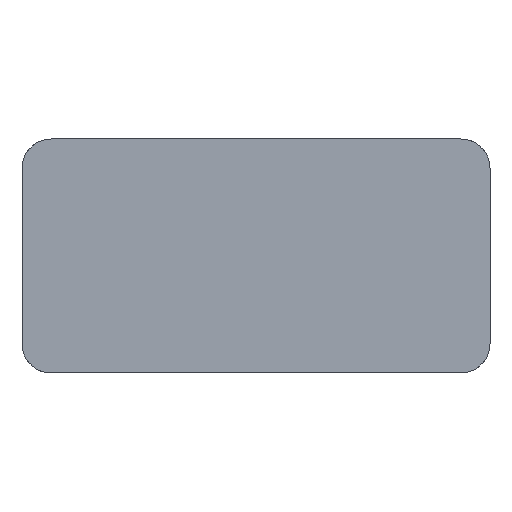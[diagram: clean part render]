
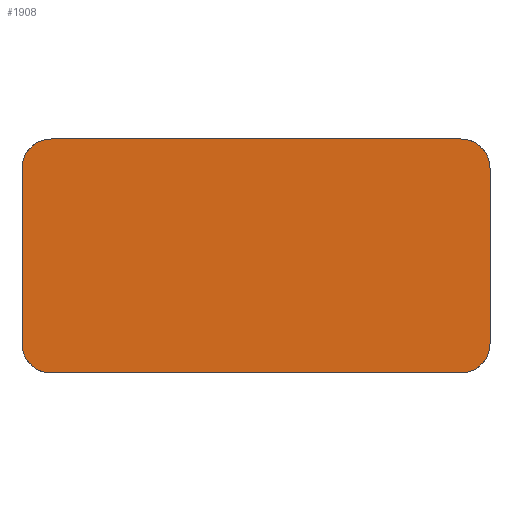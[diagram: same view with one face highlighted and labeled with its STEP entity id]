
A CAD part, front view. The second image highlights one B-rep face of the part: STEP entity #1908.
In plain terms, the highlighted planar face has unit normal (0, -1, 0).
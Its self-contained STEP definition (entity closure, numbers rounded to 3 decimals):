
#17 = DIRECTION ( 'NONE',  ( 0., -1., 0. ) ) ;
#177 = DIRECTION ( 'NONE',  ( 1., 0., 0. ) ) ;
#187 = ORIENTED_EDGE ( 'NONE', *, *, #1529, .T. ) ;
#200 = VERTEX_POINT ( 'NONE', #1638 ) ;
#260 = VECTOR ( 'NONE', #2608, 1000. ) ;
#271 = LINE ( 'NONE', #2055, #1368 ) ;
#277 = CARTESIAN_POINT ( 'NONE',  ( -35., 0., -20. ) ) ;
#365 = ORIENTED_EDGE ( 'NONE', *, *, #1700, .T. ) ;
#414 = VERTEX_POINT ( 'NONE', #2199 ) ;
#477 = CARTESIAN_POINT ( 'NONE',  ( -40., 0., -20. ) ) ;
#594 = VERTEX_POINT ( 'NONE', #2537 ) ;
#641 = AXIS2_PLACEMENT_3D ( 'NONE', #2399, #1565, #1507 ) ;
#656 = ORIENTED_EDGE ( 'NONE', *, *, #1304, .T. ) ;
#730 = VECTOR ( 'NONE', #2342, 1000. ) ;
#771 = CIRCLE ( 'NONE', #1552, 5. ) ;
#846 = DIRECTION ( 'NONE',  ( 0., -1., 0. ) ) ;
#850 = CARTESIAN_POINT ( 'NONE',  ( 40., 0., -20. ) ) ;
#862 = CARTESIAN_POINT ( 'NONE',  ( -35., 0., -15. ) ) ;
#882 = DIRECTION ( 'NONE',  ( 1., 0., 0. ) ) ;
#885 = CARTESIAN_POINT ( 'NONE',  ( 40., 0., 15. ) ) ;
#893 = DIRECTION ( 'NONE',  ( 1., 0., 0. ) ) ;
#931 = DIRECTION ( 'NONE',  ( -1., 0., 0. ) ) ;
#969 = AXIS2_PLACEMENT_3D ( 'NONE', #2174, #2411, #2839 ) ;
#1066 = CARTESIAN_POINT ( 'NONE',  ( 40., 0., 20. ) ) ;
#1145 = VERTEX_POINT ( 'NONE', #885 ) ;
#1154 = VERTEX_POINT ( 'NONE', #1759 ) ;
#1238 = CIRCLE ( 'NONE', #641, 5. ) ;
#1254 = ORIENTED_EDGE ( 'NONE', *, *, #1616, .T. ) ;
#1304 = EDGE_CURVE ( 'NONE', #2559, #1154, #2462, .T. ) ;
#1366 = DIRECTION ( 'NONE',  ( 0., 0., -1. ) ) ;
#1368 = VECTOR ( 'NONE', #931, 1000. ) ;
#1507 = DIRECTION ( 'NONE',  ( 1., 0., 0. ) ) ;
#1529 = EDGE_CURVE ( 'NONE', #2383, #414, #2837, .T. ) ;
#1534 = DIRECTION ( 'NONE',  ( 0., -1., 0. ) ) ;
#1552 = AXIS2_PLACEMENT_3D ( 'NONE', #862, #17, #177 ) ;
#1565 = DIRECTION ( 'NONE',  ( 0., -1., 0. ) ) ;
#1616 = EDGE_CURVE ( 'NONE', #2118, #594, #271, .T. ) ;
#1625 = CARTESIAN_POINT ( 'NONE',  ( -40., 0., 15. ) ) ;
#1638 = CARTESIAN_POINT ( 'NONE',  ( 40., 0., -15. ) ) ;
#1700 = EDGE_CURVE ( 'NONE', #1154, #2383, #771, .T. ) ;
#1706 = CIRCLE ( 'NONE', #2396, 5. ) ;
#1731 = LINE ( 'NONE', #2557, #730 ) ;
#1759 = CARTESIAN_POINT ( 'NONE',  ( -40., 0., -15. ) ) ;
#1763 = EDGE_LOOP ( 'NONE', ( #656, #365, #187, #2748, #1956, #2737, #1254, #2530 ) ) ;
#1839 = CIRCLE ( 'NONE', #969, 5. ) ;
#1908 = ADVANCED_FACE ( 'NONE', ( #1990 ), #2183, .T. ) ;
#1956 = ORIENTED_EDGE ( 'NONE', *, *, #2232, .T. ) ;
#1990 = FACE_OUTER_BOUND ( 'NONE', #1763, .T. ) ;
#2055 = CARTESIAN_POINT ( 'NONE',  ( 40., 0., 20. ) ) ;
#2083 = CARTESIAN_POINT ( 'NONE',  ( 35., 0., 20. ) ) ;
#2118 = VERTEX_POINT ( 'NONE', #2083 ) ;
#2169 = CARTESIAN_POINT ( 'NONE',  ( -35., 0., 15. ) ) ;
#2174 = CARTESIAN_POINT ( 'NONE',  ( 35., 0., -15. ) ) ;
#2183 = PLANE ( 'NONE',  #2668 ) ;
#2199 = CARTESIAN_POINT ( 'NONE',  ( 35., 0., -20. ) ) ;
#2232 = EDGE_CURVE ( 'NONE', #200, #1145, #1731, .T. ) ;
#2288 = VECTOR ( 'NONE', #1366, 1000. ) ;
#2342 = DIRECTION ( 'NONE',  ( 0., 0., 1. ) ) ;
#2383 = VERTEX_POINT ( 'NONE', #277 ) ;
#2396 = AXIS2_PLACEMENT_3D ( 'NONE', #2169, #846, #893 ) ;
#2399 = CARTESIAN_POINT ( 'NONE',  ( 35., 0., 15. ) ) ;
#2411 = DIRECTION ( 'NONE',  ( 0., -1., 0. ) ) ;
#2462 = LINE ( 'NONE', #477, #2288 ) ;
#2530 = ORIENTED_EDGE ( 'NONE', *, *, #2790, .T. ) ;
#2537 = CARTESIAN_POINT ( 'NONE',  ( -35., 0., 20. ) ) ;
#2557 = CARTESIAN_POINT ( 'NONE',  ( 40., 0., -20. ) ) ;
#2559 = VERTEX_POINT ( 'NONE', #1625 ) ;
#2608 = DIRECTION ( 'NONE',  ( 1., 0., 0. ) ) ;
#2632 = EDGE_CURVE ( 'NONE', #1145, #2118, #1238, .T. ) ;
#2665 = EDGE_CURVE ( 'NONE', #414, #200, #1839, .T. ) ;
#2668 = AXIS2_PLACEMENT_3D ( 'NONE', #1066, #1534, #882 ) ;
#2737 = ORIENTED_EDGE ( 'NONE', *, *, #2632, .T. ) ;
#2748 = ORIENTED_EDGE ( 'NONE', *, *, #2665, .T. ) ;
#2790 = EDGE_CURVE ( 'NONE', #594, #2559, #1706, .T. ) ;
#2837 = LINE ( 'NONE', #850, #260 ) ;
#2839 = DIRECTION ( 'NONE',  ( 1., 0., 0. ) ) ;
